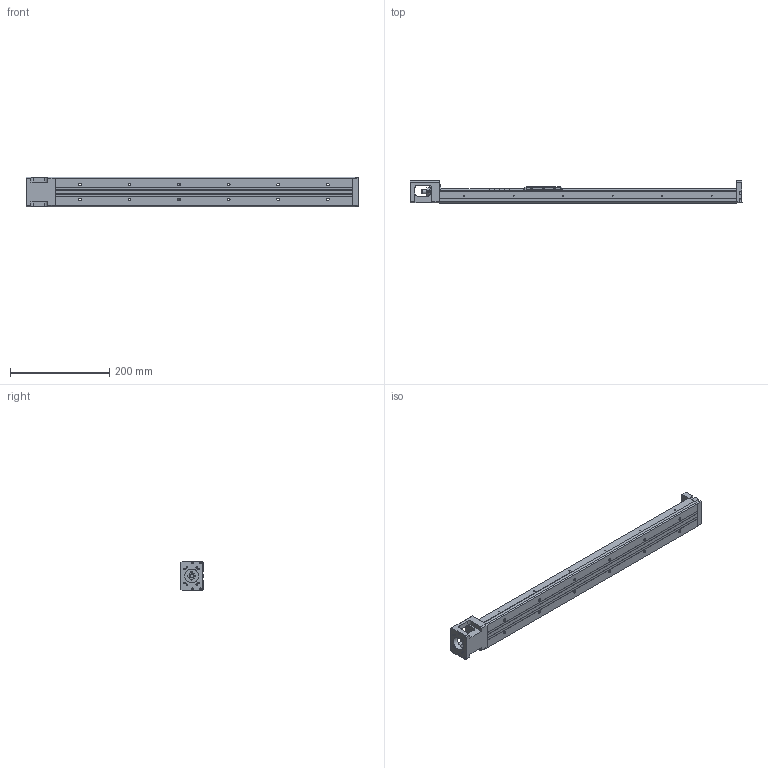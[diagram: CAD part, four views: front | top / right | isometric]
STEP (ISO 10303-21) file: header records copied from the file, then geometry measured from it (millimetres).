
FILE_DESCRIPTION(/* description */ (''),/* implementation_level */ '2;1');
FILE_NAME(/* name */ 'KP33N-600-D.stp',/* time_stamp */ '2020-06-04T17:35:34+08:00',/* author */ (''),/* organization */ (''),/* preprocessor_version */ 'ST-DEVELOPER v14',/* originating_system */ 'SIEMENS PLM Software NX 8.0',/* authorisation */ '');
FILE_SCHEMA (('AUTOMOTIVE_DESIGN { 1 0 10303 214 3 1 1 1 }'));
Length unit declared in the file: millimetre
Products named in the file (1): model1
Bounding box: 670 x 44.45 x 60 mm (x, y, z)
Volume: 699390 mm3; surface area: 196275.5 mm2
Topology: 5 solids, 14 shells, 693 faces, 1748 edges, 1153 vertices
Faces by surface type: plane 398, cylinder 208, bspline 31, cone 24, extrusion 21, torus 9, revolution 2
Full cylindrical faces by diameter (mm): 1.6 x6, 1.65 x4, 2.15 x6, 2.42 x4, 2.45 x4, 2.5 x16, 3 x3, 3.2 x4, 3.3 x4, 3.4 x3, 3.5 x10, 3.969 x1, 4 x6, 4.001 x1, 4.135 x4, 5.5 x12, 6 x4, 7.6 x1, 8 x5, 9.5 x12, 10.72 x3, 11.8 x2, 12 x6, 12.8 x1, 13 x2, 14 x1, 17.38 x3, 21.5 x1, 22 x2, 28 x1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
Entity records: 35660 total; most frequent: CARTESIAN_POINT 16485, DIRECTION 3132, ORIENTED_EDGE 3006, EDGE_CURVE 1503, AXIS2_PLACEMENT_3D 1132, VERTEX_POINT 1075, EDGE_LOOP 1000, VECTOR 866
